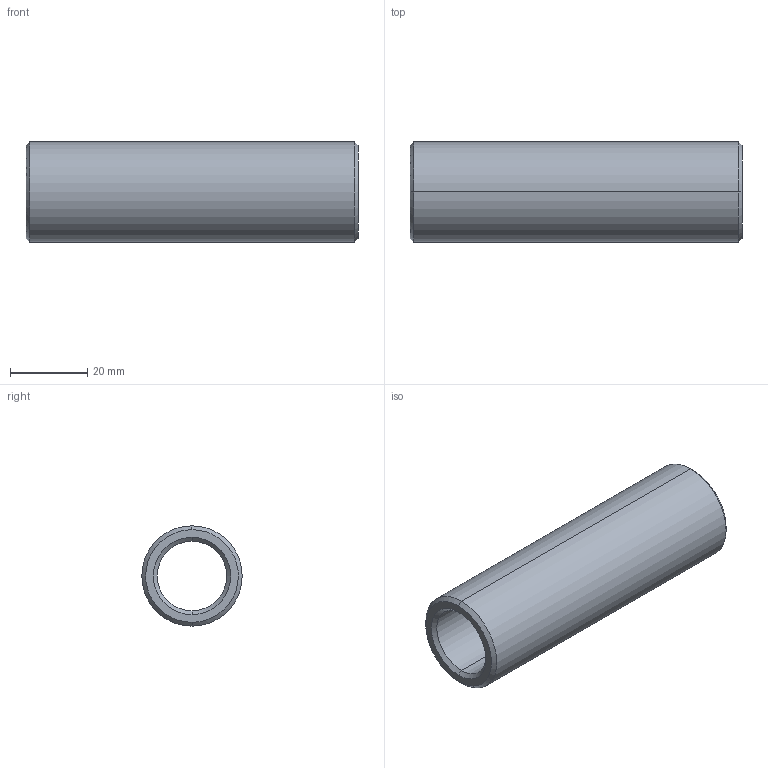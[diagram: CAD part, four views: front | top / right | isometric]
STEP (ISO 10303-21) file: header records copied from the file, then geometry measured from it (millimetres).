
FILE_DESCRIPTION(('CATIA V5 STEP Exchange'),'2;1');
FILE_NAME('C:\Users\Utente\Desktop\IO LAVORO\3D X SITO CF\X SITO\PLASTICA\352\352-18X86.stp','2021-04-12T15:37:34+00:00',('none'),('none'),'CATIA Version 5 Release 20 GA (IN-10)','CATIA V5 STEP AP203','none');
FILE_SCHEMA(('CONFIG_CONTROL_DESIGN'));
Length unit declared in the file: millimetre
Products named in the file (1): 352-18X86
Bounding box: 86 x 26 x 26 mm (x, y, z)
Volume: 23654.2 mm3; surface area: 12286.8 mm2
Topology: 1 solids, 1 shells, 14 faces, 44 edges, 32 vertices
Faces by surface type: cone 6, cylinder 4, plane 2, torus 2
Entity records: 634 total; most frequent: CARTESIAN_POINT 203, ORIENTED_EDGE 88, DIRECTION 64, EDGE_CURVE 44, AXIS2_PLACEMENT_3D 41, VERTEX_POINT 32, CIRCLE 26, EDGE_LOOP 16
